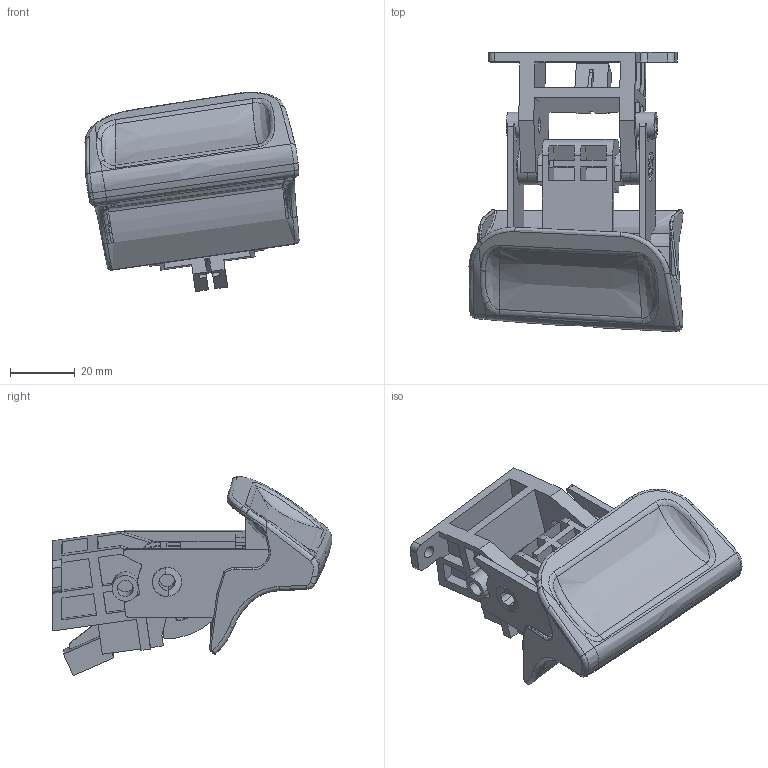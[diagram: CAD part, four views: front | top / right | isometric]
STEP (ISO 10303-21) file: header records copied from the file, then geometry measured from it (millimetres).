
FILE_DESCRIPTION(('CATIA V5 STEP Exchange','CAx-IF Rec.Pracs.--- Model Styling and Organization---1.4--- 2014-01-23'),'2;1');
FILE_NAME('C:\Users\luhaitao\Desktop\塑料件平台项目\塑料件样件清单\02.stp','2025-05-09T03:16:44+00:00',('none'),('none'),'CATIA Version 5-6 Release 2017','CATIA V5 STEP AP214','none');
FILE_SCHEMA(('AUTOMOTIVE_DESIGN { 1 0 10303 214 1 1 1 1 }'));
Length unit declared in the file: millimetre
Products named in the file (1): 02
Bounding box: 65.98 x 86.19 x 61.43 mm (x, y, z)
Volume: 39094.8 mm3; surface area: 35459.1 mm2
Topology: 3 solids, 3 shells, 584 faces, 1661 edges, 1078 vertices
Faces by surface type: plane 247, bspline 232, cylinder 95, sphere 6, torus 4
Entity records: 28871 total; most frequent: CARTESIAN_POINT 16701, ORIENTED_EDGE 3304, EDGE_CURVE 1652, DIRECTION 1338, VERTEX_POINT 1078, VECTOR 647, LINE 647, B_SPLINE_CURVE_WITH_KNOTS 629
